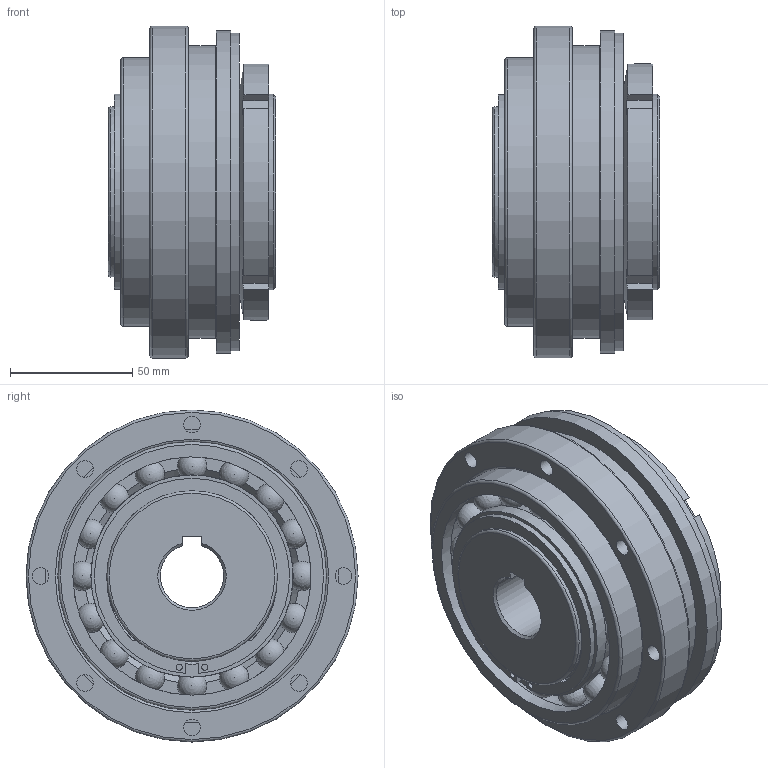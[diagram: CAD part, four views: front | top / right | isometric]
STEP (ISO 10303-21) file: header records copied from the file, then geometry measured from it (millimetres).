
FILE_DESCRIPTION( ( 'Unknown' ), '1' );
FILE_NAME( 'F:/JAKOB-STEP+IGES-Dateien/STEP-Dateien/SKW/SKW 500.stp', 'Unknown', ( 'Unknown' ), ( 'Unknown' ), 'PSStep 10.1', 'Unknown', ' ' );
FILE_SCHEMA( ( 'AUTOMOTIVE_DESIGN { 1 0 10303 214 1 1 1 1 }' ) );
Length unit declared in the file: millimetre
Products named in the file (1): 27920754
Bounding box: 68.5 x 136 x 136 mm (x, y, z)
Volume: 646971.5 mm3; surface area: 104456 mm2
Topology: 1 solids, 4 shells, 169 faces, 548 edges, 365 vertices
Faces by surface type: plane 60, torus 44, cylinder 42, sphere 16, cone 7
Full cylindrical faces by diameter (mm): 2.5 x2, 4.2 x3, 6.8 x8, 67 x1, 69.8 x1, 70 x2, 80 x2, 80.3 x1, 82.8 x2, 97.6 x2, 110 x2, 116 x2, 120 x1, 130 x1, 132 x1, 136 x1
Entity records: 8182 total; most frequent: CARTESIAN_POINT 2732, ORIENTED_EDGE 826, DIRECTION 794, EDGE_CURVE 413, AXIS2_PLACEMENT_3D 351, VERTEX_POINT 297, EDGE_LOOP 272, FACE_OUTER_BOUND 197
